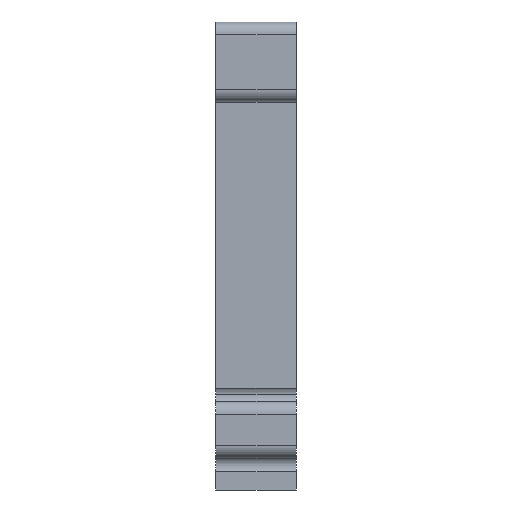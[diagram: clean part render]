
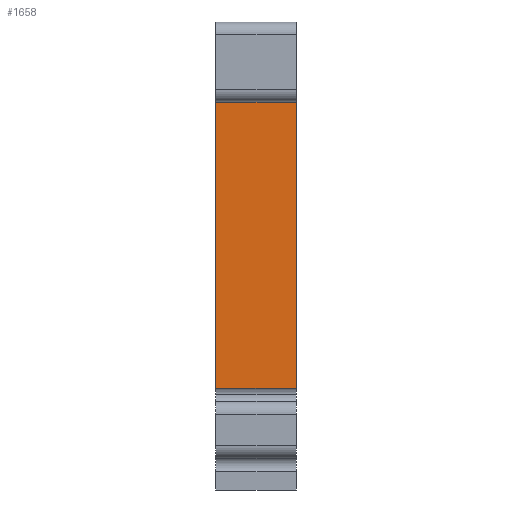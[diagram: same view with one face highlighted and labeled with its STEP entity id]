
A CAD part, front view. The second image highlights one B-rep face of the part: STEP entity #1658.
In plain terms, the highlighted planar face has unit normal (0, -1, 0).
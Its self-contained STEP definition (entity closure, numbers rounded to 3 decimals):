
#608=CARTESIAN_POINT('',(116.878,-33.238,41.211));
#609=VERTEX_POINT('',#608);
#617=CARTESIAN_POINT('',(116.878,-33.238,90.925));
#618=VERTEX_POINT('',#617);
#619=CARTESIAN_POINT('',(116.878,-33.238,90.925));
#620=DIRECTION('',(-0.,0.,-1.));
#621=VECTOR('',#620,49.714);
#622=LINE('',#619,#621);
#623=EDGE_CURVE('',#618,#609,#622,.T.);
#1172=CARTESIAN_POINT('',(129.578,-33.238,90.925));
#1173=VERTEX_POINT('',#1172);
#1181=CARTESIAN_POINT('',(129.578,-33.238,41.211));
#1182=VERTEX_POINT('',#1181);
#1183=CARTESIAN_POINT('',(129.578,-33.238,90.925));
#1184=DIRECTION('',(-0.,0.,-1.));
#1185=VECTOR('',#1184,49.714);
#1186=LINE('',#1183,#1185);
#1187=EDGE_CURVE('',#1173,#1182,#1186,.T.);
#1637=CARTESIAN_POINT('',(116.878,-33.238,105.09));
#1638=DIRECTION('',(0.,1.,-0.));
#1639=DIRECTION('',(1.,-0.,-0.));
#1640=AXIS2_PLACEMENT_3D('',#1637,#1638,#1639);
#1641=PLANE('',#1640);
#1642=CARTESIAN_POINT('',(116.878,-33.238,90.925));
#1643=DIRECTION('',(1.,0.,-0.));
#1644=VECTOR('',#1643,12.7);
#1645=LINE('',#1642,#1644);
#1646=EDGE_CURVE('',#618,#1173,#1645,.T.);
#1647=ORIENTED_EDGE('',*,*,#1646,.F.);
#1648=ORIENTED_EDGE('',*,*,#623,.T.);
#1649=CARTESIAN_POINT('',(129.578,-33.238,41.211));
#1650=DIRECTION('',(-1.,0.,0.));
#1651=VECTOR('',#1650,12.7);
#1652=LINE('',#1649,#1651);
#1653=EDGE_CURVE('',#1182,#609,#1652,.T.);
#1654=ORIENTED_EDGE('',*,*,#1653,.F.);
#1655=ORIENTED_EDGE('',*,*,#1187,.F.);
#1656=EDGE_LOOP('',(#1647,#1648,#1654,#1655));
#1657=FACE_BOUND('',#1656,.T.);
#1658=ADVANCED_FACE('',(#1657),#1641,.F.);
